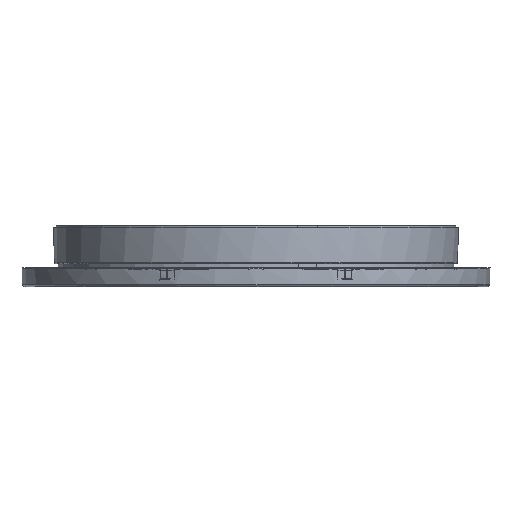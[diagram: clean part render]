
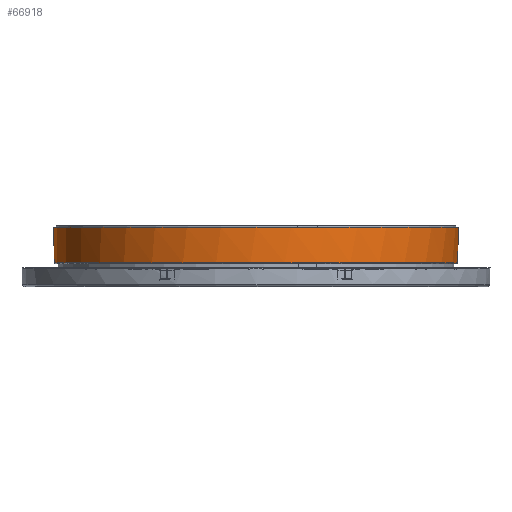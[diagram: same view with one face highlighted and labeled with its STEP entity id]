
A CAD part, front view. The second image highlights one B-rep face of the part: STEP entity #66918.
In plain terms, the highlighted conical face has half-angle 1.5 degrees and reference radius 82.07 mm.
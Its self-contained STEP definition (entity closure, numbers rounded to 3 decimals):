
#3011 = DIRECTION ( 'NONE',  ( 0., 0., 1. ) ) ;
#4972 = CARTESIAN_POINT ( 'NONE',  ( 82.07, 0., 21. ) ) ;
#10693 = B_SPLINE_CURVE_WITH_KNOTS ( 'NONE', 3,
 ( #79757, #79345, #89079, #23498 ),
 .UNSPECIFIED., .F., .F.,
 ( 4, 4 ),
 ( 0., 0.922 ),
 .UNSPECIFIED. ) ;
#11715 = CARTESIAN_POINT ( 'NONE',  ( -82.07, 0., 21. ) ) ;
#12693 = EDGE_CURVE ( 'NONE', #51345, #93144, #94061, .T. ) ;
#12792 = CARTESIAN_POINT ( 'NONE',  ( 81.737, -1.185, 8.59 ) ) ;
#14035 = DIRECTION ( 'NONE',  ( 0., 0., -1. ) ) ;
#14779 = CARTESIAN_POINT ( 'NONE',  ( 81.62, -4.52, 8.59 ) ) ;
#17135 = FACE_OUTER_BOUND ( 'NONE', #46997, .T. ) ;
#21229 = DIRECTION ( 'NONE',  ( -1., 0., 0. ) ) ;
#22909 = CARTESIAN_POINT ( 'NONE',  ( 0., 0., 13.2 ) ) ;
#23498 = CARTESIAN_POINT ( 'NONE',  ( 81.737, -1.185, 8.59 ) ) ;
#23572 = ORIENTED_EDGE ( 'NONE', *, *, #82350, .T. ) ;
#23586 = AXIS2_PLACEMENT_3D ( 'NONE', #90629, #35608, #34809 ) ;
#26644 = AXIS2_PLACEMENT_3D ( 'NONE', #60878, #14035, #115921 ) ;
#26992 = VERTEX_POINT ( 'NONE', #64044 ) ;
#29375 = AXIS2_PLACEMENT_3D ( 'NONE', #113788, #58299, #21229 ) ;
#29789 = EDGE_CURVE ( 'NONE', #78019, #43530, #10693, .T. ) ;
#30732 = DIRECTION ( 'NONE',  ( 1., 0., 0. ) ) ;
#31164 = VERTEX_POINT ( 'NONE', #73853 ) ;
#34809 = DIRECTION ( 'NONE',  ( -1., 0., 0. ) ) ;
#35608 = DIRECTION ( 'NONE',  ( 0., 0., 1. ) ) ;
#36327 = VECTOR ( 'NONE', #67963, 1000. ) ;
#41128 = VERTEX_POINT ( 'NONE', #102081 ) ;
#43530 = VERTEX_POINT ( 'NONE', #12792 ) ;
#44086 = CARTESIAN_POINT ( 'NONE',  ( 81.745, -4.443, 13.2 ) ) ;
#46997 = EDGE_LOOP ( 'NONE', ( #103381, #109051, #23572, #115194, #100214, #97580, #94164, #56682 ) ) ;
#48077 = VERTEX_POINT ( 'NONE', #94105 ) ;
#49378 = LINE ( 'NONE', #11715, #36327 ) ;
#49842 = CIRCLE ( 'NONE', #29375, 81.745 ) ;
#51345 = VERTEX_POINT ( 'NONE', #76170 ) ;
#52954 = CARTESIAN_POINT ( 'NONE',  ( 0., 0., 21. ) ) ;
#56682 = ORIENTED_EDGE ( 'NONE', *, *, #12693, .T. ) ;
#58299 = DIRECTION ( 'NONE',  ( 0., 0., 1. ) ) ;
#60878 = CARTESIAN_POINT ( 'NONE',  ( 0., 0., 23. ) ) ;
#60898 = CARTESIAN_POINT ( 'NONE',  ( 81.856, -1.27, 13.2 ) ) ;
#62731 = EDGE_CURVE ( 'NONE', #43530, #26992, #49842, .T. ) ;
#64044 = CARTESIAN_POINT ( 'NONE',  ( 81.745, 0., 8.59 ) ) ;
#64702 = AXIS2_PLACEMENT_3D ( 'NONE', #52954, #116964, #71353 ) ;
#66918 = ADVANCED_FACE ( 'NONE', ( #17135 ), #91493, .T. ) ;
#67963 = DIRECTION ( 'NONE',  ( -0.026, 0., 1. ) ) ;
#68211 = EDGE_CURVE ( 'NONE', #48077, #78019, #108834, .T. ) ;
#69782 = DIRECTION ( 'NONE',  ( 0.026, 0., 1. ) ) ;
#71353 = DIRECTION ( 'NONE',  ( 1., 0., 0. ) ) ;
#72640 = CARTESIAN_POINT ( 'NONE',  ( 81.704, -4.469, 11.663 ) ) ;
#72774 = EDGE_CURVE ( 'NONE', #31164, #41128, #74804, .T. ) ;
#73532 = CARTESIAN_POINT ( 'NONE',  ( -82.123, 0., 23. ) ) ;
#73853 = CARTESIAN_POINT ( 'NONE',  ( -81.745, 0., 8.59 ) ) ;
#74804 = CIRCLE ( 'NONE', #23586, 81.745 ) ;
#76170 = CARTESIAN_POINT ( 'NONE',  ( 82.123, 0., 23. ) ) ;
#78019 = VERTEX_POINT ( 'NONE', #60898 ) ;
#79345 = CARTESIAN_POINT ( 'NONE',  ( 81.816, -1.242, 11.663 ) ) ;
#79757 = CARTESIAN_POINT ( 'NONE',  ( 81.856, -1.27, 13.2 ) ) ;
#80943 = LINE ( 'NONE', #4972, #117378 ) ;
#82350 = EDGE_CURVE ( 'NONE', #41128, #48077, #109348, .T. ) ;
#89079 = CARTESIAN_POINT ( 'NONE',  ( 81.777, -1.213, 10.126 ) ) ;
#90629 = CARTESIAN_POINT ( 'NONE',  ( 0., 0., 8.59 ) ) ;
#91493 = CONICAL_SURFACE ( 'NONE', #64702, 82.07, 0.026 ) ;
#93144 = VERTEX_POINT ( 'NONE', #73532 ) ;
#94061 = CIRCLE ( 'NONE', #26644, 82.123 ) ;
#94105 = CARTESIAN_POINT ( 'NONE',  ( 81.745, -4.443, 13.2 ) ) ;
#94164 = ORIENTED_EDGE ( 'NONE', *, *, #118409, .T. ) ;
#97580 = ORIENTED_EDGE ( 'NONE', *, *, #62731, .T. ) ;
#99108 = EDGE_CURVE ( 'NONE', #31164, #93144, #49378, .T. ) ;
#100214 = ORIENTED_EDGE ( 'NONE', *, *, #29789, .T. ) ;
#102081 = CARTESIAN_POINT ( 'NONE',  ( 81.62, -4.52, 8.59 ) ) ;
#103381 = ORIENTED_EDGE ( 'NONE', *, *, #99108, .F. ) ;
#107291 = CARTESIAN_POINT ( 'NONE',  ( 81.662, -4.494, 10.126 ) ) ;
#108834 = CIRCLE ( 'NONE', #109293, 81.866 ) ;
#109051 = ORIENTED_EDGE ( 'NONE', *, *, #72774, .T. ) ;
#109293 = AXIS2_PLACEMENT_3D ( 'NONE', #22909, #3011, #30732 ) ;
#109348 = B_SPLINE_CURVE_WITH_KNOTS ( 'NONE', 3,
 ( #14779, #107291, #72640, #44086 ),
 .UNSPECIFIED., .F., .F.,
 ( 4, 4 ),
 ( 0.078, 1. ),
 .UNSPECIFIED. ) ;
#113788 = CARTESIAN_POINT ( 'NONE',  ( 0., 0., 8.59 ) ) ;
#115194 = ORIENTED_EDGE ( 'NONE', *, *, #68211, .T. ) ;
#115921 = DIRECTION ( 'NONE',  ( -1., 0., 0. ) ) ;
#116964 = DIRECTION ( 'NONE',  ( 0., 0., 1. ) ) ;
#117378 = VECTOR ( 'NONE', #69782, 1000. ) ;
#118409 = EDGE_CURVE ( 'NONE', #26992, #51345, #80943, .T. ) ;
